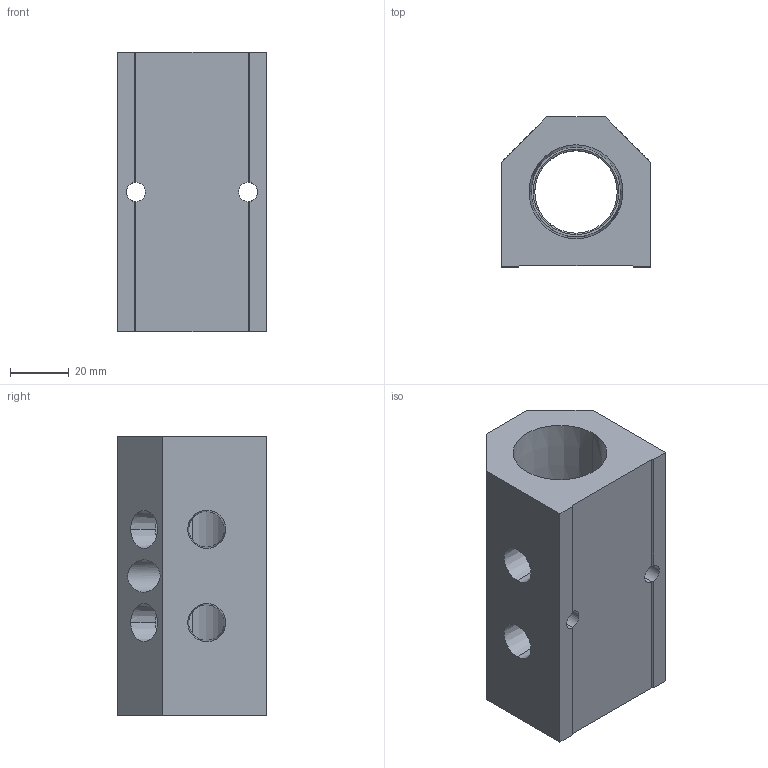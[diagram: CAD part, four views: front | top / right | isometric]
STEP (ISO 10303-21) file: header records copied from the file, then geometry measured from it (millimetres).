
FILE_DESCRIPTION (( 'STEP AP214' ), '1' );
FILE_NAME ('ALM2ABC-N4N16-95B.STEP', '2023-11-02T06:30:51', ( '' ), ( '' ), 'SwSTEP 2.0', 'SolidWorks 2020', '' );
FILE_SCHEMA (( 'AUTOMOTIVE_DESIGN' ));
Length unit declared in the file: millimetre
Products named in the file (1): ALM2ABC-N4N16-95B
Bounding box: 50.8 x 50.8 x 95 mm (x, y, z)
Volume: 142482.1 mm3; surface area: 32823.3 mm2
Topology: 1 solids, 1 shells, 302 faces, 792 edges, 524 vertices
Faces by surface type: plane 205, bspline 63, cone 20, cylinder 14
Entity records: 16488 total; most frequent: CARTESIAN_POINT 6594, ORIENTED_EDGE 1584, DIRECTION 1166, EDGE_CURVE 792, VECTOR 598, LINE 598, VERTEX_POINT 524, EDGE_LOOP 352
